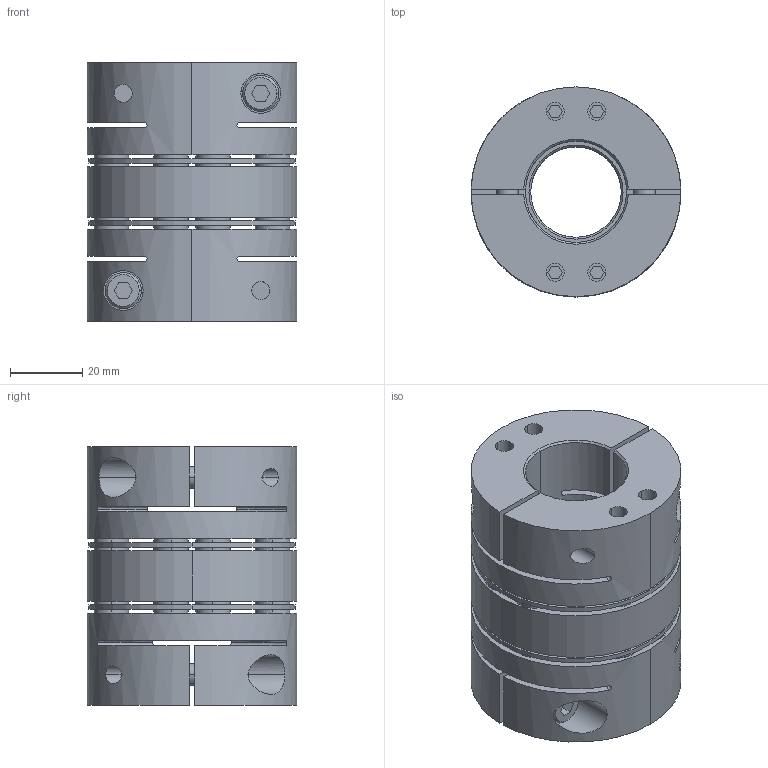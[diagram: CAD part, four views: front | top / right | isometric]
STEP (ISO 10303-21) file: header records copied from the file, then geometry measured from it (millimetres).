
FILE_DESCRIPTION((''),'2;1');
FILE_NAME('TAD-58C-25×28.stp','2022-11-13T22:09:16',(''),(''),'AutoCAD STEP 2000i','AutoCAD 2000i',', , ');
FILE_SCHEMA(('CONFIG_CONTROL_DESIGN'));
Length unit declared in the file: millimetre
Products named in the file (8): TAD-58C-22×22; 忣兜1; TA58C-22-2; CAP-M6×20; TA58C-22; TA58C-12-2; TA58C-12; TAS-58C-ITA
Assembly tree (10 placements, depth 3):
  TAD-58C-22×22
    忣兜1
    TA58C-22-2
      CAP-M6×20
    TA58C-22
      CAP-M6×20
    TA58C-12-2
      CAP-M6×20
    TA58C-12
      CAP-M6×20
    TAS-58C-ITA
Bounding box: 58 x 58 x 71.5 mm (x, y, z)
Volume: 123281.8 mm3; surface area: 54107.4 mm2
Topology: 1 solids, 5 shells, 568 faces, 1370 edges, 954 vertices
Faces by surface type: plane 252, cylinder 228, cone 72, bspline 16
Entity records: 18721 total; most frequent: CARTESIAN_POINT 4821, DIRECTION 3022, ORIENTED_EDGE 2640, EDGE_CURVE 1320, AXIS2_PLACEMENT_3D 1145, VERTEX_POINT 860, VECTOR 732, LINE 732
